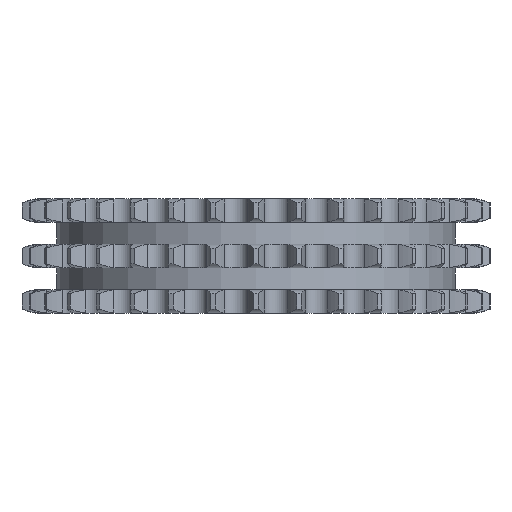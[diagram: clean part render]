
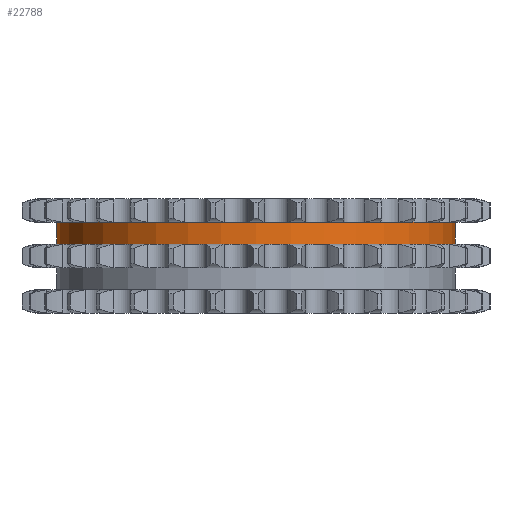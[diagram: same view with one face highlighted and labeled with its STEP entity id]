
A CAD part, left-side view. The second image highlights one B-rep face of the part: STEP entity #22788.
In plain terms, the highlighted cylindrical face has radius 60.821 mm (diameter 121.642 mm), a partial arc.
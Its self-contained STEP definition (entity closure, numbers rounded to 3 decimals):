
#4481=DIRECTION('',(0.,0.,-1.));
#4482=VECTOR('',#4481,6.65);
#4483=CARTESIAN_POINT('',(0.,60.821,10.25));
#4484=LINE('',#4483,#4482);
#4488=CARTESIAN_POINT('',(0.,0.,10.25));
#4489=DIRECTION('',(0.,0.,1.));
#4490=DIRECTION('',(0.,1.,0.));
#4491=AXIS2_PLACEMENT_3D('',#4488,#4489,#4490);
#4496=DIRECTION('',(0.,0.,-1.));
#4497=VECTOR('',#4496,6.65);
#4498=CARTESIAN_POINT('',(0.,-60.821,10.25));
#4499=LINE('',#4498,#4497);
#4503=CARTESIAN_POINT('',(0.,0.,3.6));
#4504=DIRECTION('',(0.,0.,1.));
#4505=DIRECTION('',(0.,1.,0.));
#4506=AXIS2_PLACEMENT_3D('',#4503,#4504,#4505);
#18292=CARTESIAN_POINT('',(0.,60.821,10.25));
#18293=CARTESIAN_POINT('',(0.,60.821,3.6));
#18294=VERTEX_POINT('',#18292);
#18295=VERTEX_POINT('',#18293);
#18296=CARTESIAN_POINT('',(0.,-60.821,10.25));
#18297=CARTESIAN_POINT('',(0.,-60.821,3.6));
#18298=VERTEX_POINT('',#18296);
#18299=VERTEX_POINT('',#18297);
#22776=CARTESIAN_POINT('',(0.,0.,11.275));
#22777=DIRECTION('',(0.,0.,-1.));
#22778=DIRECTION('',(0.,-1.,0.));
#22779=AXIS2_PLACEMENT_3D('',#22776,#22777,#22778);
#22780=CYLINDRICAL_SURFACE('',#22779,60.821);
#22781=ORIENTED_EDGE('',*,*,#22766,.F.);
#22782=ORIENTED_EDGE('',*,*,#22756,.T.);
#22783=ORIENTED_EDGE('',*,*,#22770,.T.);
#22785=ORIENTED_EDGE('',*,*,#22784,.F.);
#22786=EDGE_LOOP('',(#22781,#22782,#22783,#22785));
#22787=FACE_OUTER_BOUND('',#22786,.F.);
#22788=ADVANCED_FACE('',(#22787),#22780,.T.);
#4492=CIRCLE('',#4491,60.821);
#4507=CIRCLE('',#4506,60.821);
#22756=EDGE_CURVE('',#18294,#18298,#4492,.T.);
#22766=EDGE_CURVE('',#18294,#18295,#4484,.T.);
#22770=EDGE_CURVE('',#18298,#18299,#4499,.T.);
#22784=EDGE_CURVE('',#18295,#18299,#4507,.T.);
